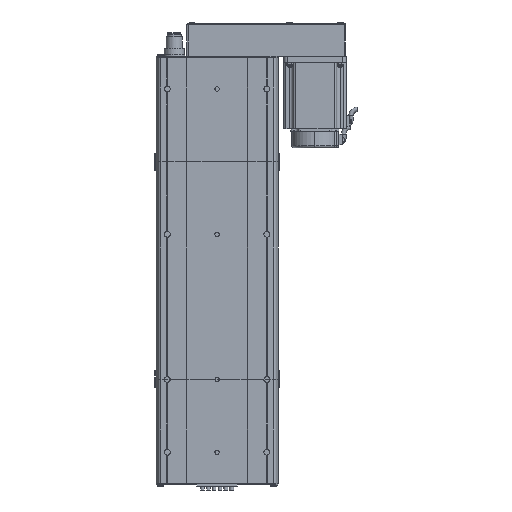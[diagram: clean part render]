
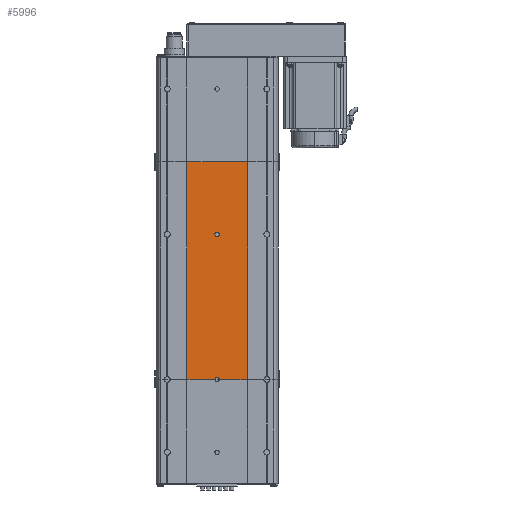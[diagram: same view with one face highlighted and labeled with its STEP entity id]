
A CAD part, front view. The second image highlights one B-rep face of the part: STEP entity #5996.
In plain terms, the highlighted planar face has unit normal (0, -1, 0).
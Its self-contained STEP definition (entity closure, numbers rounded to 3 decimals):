
#5927 = EDGE_CURVE ( 'NONE', #5997, #6072, #130819, .T. ) ;
#5928 = EDGE_CURVE ( 'NONE', #6072, #6074, #130670, .T. ) ;
#5930 = ORIENTED_EDGE ( 'NONE', *, *, #6035, .T. ) ;
#5931 = EDGE_CURVE ( 'NONE', #6004, #5932, #130651, .T. ) ;
#5932 = VERTEX_POINT ( 'NONE', #130803 ) ;
#5933 = EDGE_LOOP ( 'NONE', ( #5935, #6034, #5930, #6020, #6019, #6064 ) ) ;
#5935 = ORIENTED_EDGE ( 'NONE', *, *, #5928, .F. ) ;
#5957 = VERTEX_POINT ( 'NONE', #131127 ) ;
#5958 = VERTEX_POINT ( 'NONE', #131226 ) ;
#5968 = EDGE_CURVE ( 'NONE', #5958, #5957, #131244, .T. ) ;
#5996 = ADVANCED_FACE ( 'NONE', ( #131162, #131106 ), #130877, .F. ) ;
#5997 = VERTEX_POINT ( 'NONE', #131101 ) ;
#6003 = EDGE_CURVE ( 'NONE', #5957, #5958, #130848, .T. ) ;
#6004 = VERTEX_POINT ( 'NONE', #131097 ) ;
#6019 = ORIENTED_EDGE ( 'NONE', *, *, #6086, .F. ) ;
#6020 = ORIENTED_EDGE ( 'NONE', *, *, #5931, .F. ) ;
#6021 = ORIENTED_EDGE ( 'NONE', *, *, #6003, .F. ) ;
#6034 = ORIENTED_EDGE ( 'NONE', *, *, #5927, .F. ) ;
#6035 = EDGE_CURVE ( 'NONE', #5997, #5932, #131479, .T. ) ;
#6036 = EDGE_CURVE ( 'NONE', #6081, #6074, #131473, .T. ) ;
#6064 = ORIENTED_EDGE ( 'NONE', *, *, #6036, .T. ) ;
#6072 = VERTEX_POINT ( 'NONE', #131614 ) ;
#6073 = ORIENTED_EDGE ( 'NONE', *, *, #5968, .F. ) ;
#6074 = VERTEX_POINT ( 'NONE', #131643 ) ;
#6081 = VERTEX_POINT ( 'NONE', #131593 ) ;
#6082 = EDGE_LOOP ( 'NONE', ( #6021, #6073 ) ) ;
#6086 = EDGE_CURVE ( 'NONE', #6081, #6004, #131621, .T. ) ;
#130639 = DIRECTION ( 'NONE',  ( 0., 0., -1. ) ) ;
#130641 = VECTOR ( 'NONE', #130639, 1000. ) ;
#130650 = CARTESIAN_POINT ( 'NONE',  ( 41.5, 0., 300. ) ) ;
#130651 = LINE ( 'NONE', #130650, #130641 ) ;
#130657 = DIRECTION ( 'NONE',  ( -1., 0., 0. ) ) ;
#130658 = VECTOR ( 'NONE', #130657, 1000. ) ;
#130660 = CARTESIAN_POINT ( 'NONE',  ( 0., 0., 0. ) ) ;
#130667 = DIRECTION ( 'NONE',  ( 0., 0., -1. ) ) ;
#130669 = DIRECTION ( 'NONE',  ( 0., -1., 0. ) ) ;
#130670 = LINE ( 'NONE', #130660, #130658 ) ;
#130700 = CARTESIAN_POINT ( 'NONE',  ( 0., 0., 0. ) ) ;
#130701 = AXIS2_PLACEMENT_3D ( 'NONE', #130700, #130669, #130667 ) ;
#130803 = CARTESIAN_POINT ( 'NONE',  ( 41.5, 0., 0. ) ) ;
#130819 = CIRCLE ( 'NONE', #130701, 3. ) ;
#130845 = CARTESIAN_POINT ( 'NONE',  ( 0., 0., 200. ) ) ;
#130848 = CIRCLE ( 'NONE', #131088, 3. ) ;
#130861 = AXIS2_PLACEMENT_3D ( 'NONE', #131095, #131094, #131093 ) ;
#130877 = PLANE ( 'NONE',  #130861 ) ;
#130976 = DIRECTION ( 'NONE',  ( 0., 0., -1. ) ) ;
#130977 = DIRECTION ( 'NONE',  ( 0., -1., 0. ) ) ;
#131088 = AXIS2_PLACEMENT_3D ( 'NONE', #130845, #131196, #131195 ) ;
#131093 = DIRECTION ( 'NONE',  ( 0., 0., 1. ) ) ;
#131094 = DIRECTION ( 'NONE',  ( 0., 1., 0. ) ) ;
#131095 = CARTESIAN_POINT ( 'NONE',  ( 0., 0., 300. ) ) ;
#131097 = CARTESIAN_POINT ( 'NONE',  ( 41.5, 0., 300. ) ) ;
#131101 = CARTESIAN_POINT ( 'NONE',  ( 3., 0., 0. ) ) ;
#131106 = FACE_OUTER_BOUND ( 'NONE', #5933, .T. ) ;
#131115 = AXIS2_PLACEMENT_3D ( 'NONE', #131240, #130977, #130976 ) ;
#131127 = CARTESIAN_POINT ( 'NONE',  ( 0., 0., 197. ) ) ;
#131162 = FACE_BOUND ( 'NONE', #6082, .T. ) ;
#131195 = DIRECTION ( 'NONE',  ( 0., 0., -1. ) ) ;
#131196 = DIRECTION ( 'NONE',  ( 0., -1., 0. ) ) ;
#131226 = CARTESIAN_POINT ( 'NONE',  ( 0., 0., 203. ) ) ;
#131240 = CARTESIAN_POINT ( 'NONE',  ( 0., 0., 200. ) ) ;
#131244 = CIRCLE ( 'NONE', #131115, 3. ) ;
#131275 = VECTOR ( 'NONE', #131546, 1000. ) ;
#131276 = CARTESIAN_POINT ( 'NONE',  ( -41.5, 0., 300. ) ) ;
#131353 = DIRECTION ( 'NONE',  ( 1., 0., 0. ) ) ;
#131355 = VECTOR ( 'NONE', #131353, 1000. ) ;
#131473 = LINE ( 'NONE', #131276, #131275 ) ;
#131474 = DIRECTION ( 'NONE',  ( 1., 0., 0. ) ) ;
#131476 = VECTOR ( 'NONE', #131474, 1000. ) ;
#131477 = CARTESIAN_POINT ( 'NONE',  ( 0., 0., 0. ) ) ;
#131479 = LINE ( 'NONE', #131477, #131476 ) ;
#131546 = DIRECTION ( 'NONE',  ( 0., 0., -1. ) ) ;
#131593 = CARTESIAN_POINT ( 'NONE',  ( -41.5, 0., 300. ) ) ;
#131614 = CARTESIAN_POINT ( 'NONE',  ( -3., 0., 0. ) ) ;
#131620 = CARTESIAN_POINT ( 'NONE',  ( 0., 0., 300. ) ) ;
#131621 = LINE ( 'NONE', #131620, #131355 ) ;
#131643 = CARTESIAN_POINT ( 'NONE',  ( -41.5, 0., 0. ) ) ;
